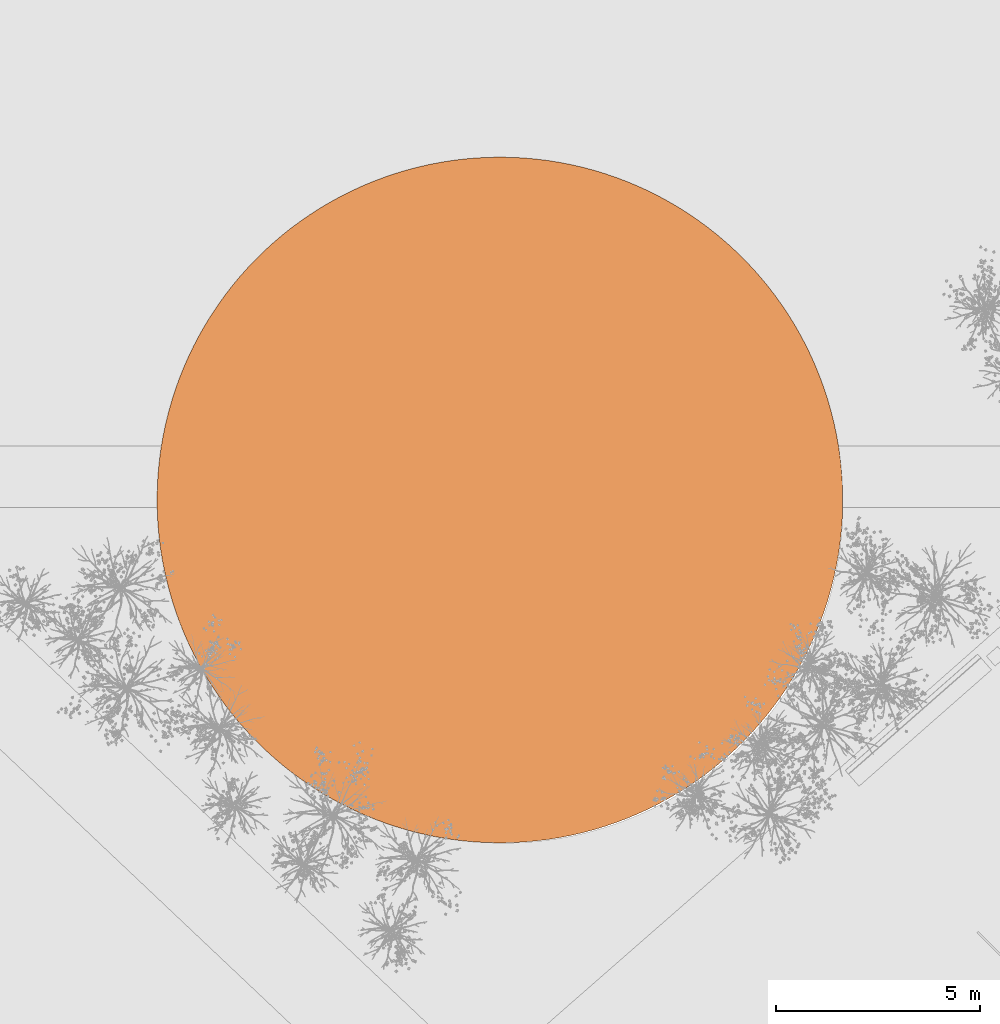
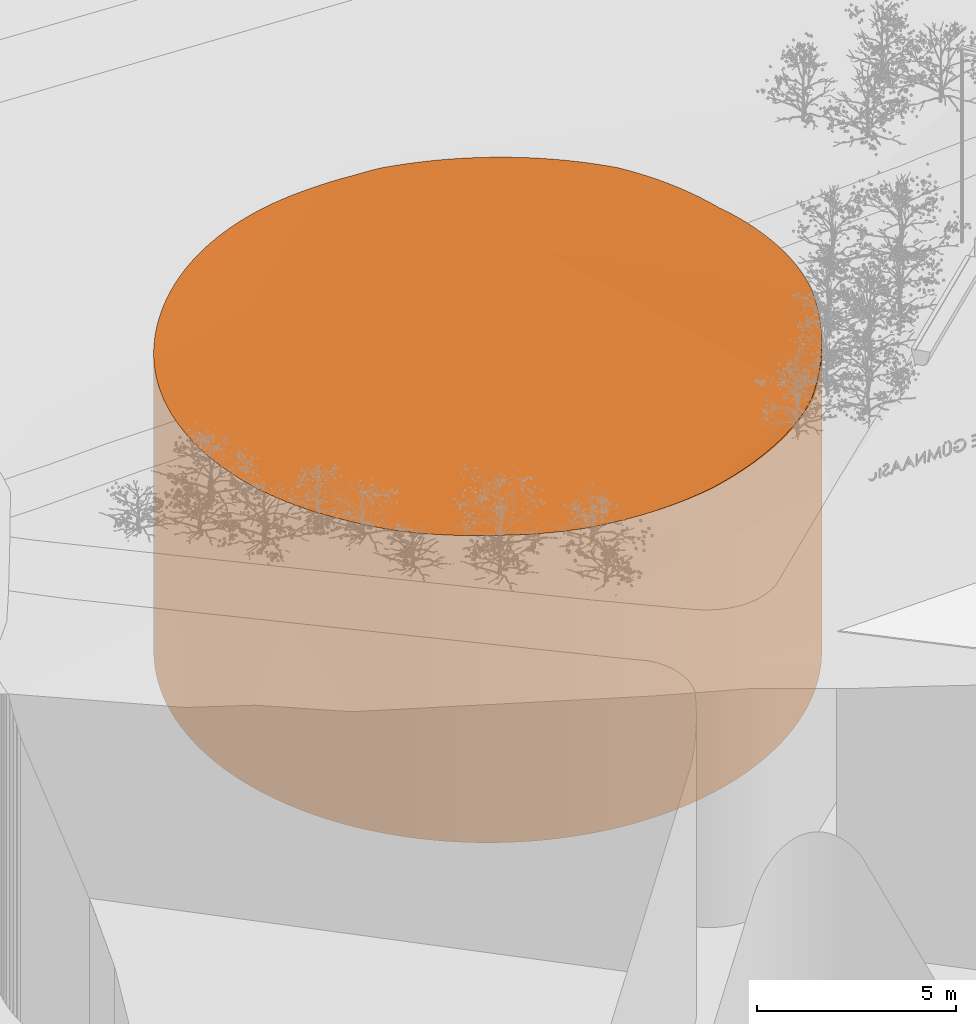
# One storey, part 224 of 246: 1 proxy.
"""IFC2X3 building model written with IfcOpenShell, lengths in millimetres."""

from ifc_helpers import new_model, entity, si_unit, converted_unit, derived_unit, money_unit, direction, frame, origin_with_axes, place, context, subcontext, project, spatial, faceted_brep, material, type_object, element, save


model = new_model("IFC2X3")

# Units and contexts
model_context = context("Model", 3, precision=0.01, world=origin_with_axes(), true_north=direction((0.0, 1.0)))
body_context = subcontext(model_context, "Body", "Model", "MODEL_VIEW")
ifc_project = project(units=[si_unit("LENGTHUNIT", "METRE", prefix="MILLI"), si_unit("AREAUNIT", "SQUARE_METRE"), si_unit("VOLUMEUNIT", "CUBIC_METRE"), converted_unit("PLANEANGLEUNIT", "DEGREE", entity("IfcPlaneAngleMeasure", 0.0174532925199), si_unit("PLANEANGLEUNIT", "RADIAN"), dimensions=[0, 0, 0, 0, 0, 0, 0]), si_unit("SOLIDANGLEUNIT", "STERADIAN"), money_unit("EUR"), converted_unit("TIMEUNIT", "Year", entity("IfcTimeMeasure", 31556926.0), si_unit("TIMEUNIT", "SECOND"), dimensions=[0, 0, 1, 0, 0, 0, 0]), si_unit("MASSUNIT", "GRAM", prefix="KILO"), si_unit("THERMODYNAMICTEMPERATUREUNIT", "DEGREE_CELSIUS"), si_unit("LUMINOUSINTENSITYUNIT", "LUMEN"), si_unit("ENERGYUNIT", "JOULE", prefix="MEGA"), derived_unit("THERMALCONDUCTANCEUNIT", [(si_unit("POWERUNIT", "WATT"), 1), (si_unit("LENGTHUNIT", "METRE"), -1), (si_unit("THERMODYNAMICTEMPERATUREUNIT", "KELVIN"), -1)]), derived_unit("SPECIFICHEATCAPACITYUNIT", [(si_unit("ENERGYUNIT", "JOULE"), 1), (si_unit("MASSUNIT", "GRAM", prefix="KILO"), -1), (si_unit("THERMODYNAMICTEMPERATUREUNIT", "KELVIN"), -1)]), derived_unit("MASSDENSITYUNIT", [(si_unit("MASSUNIT", "GRAM", prefix="KILO"), 1), (si_unit("VOLUMEUNIT", "CUBIC_METRE"), -1)])], contexts=[model_context])

# Site, building, storey
site_placement = place(None, origin_with_axes())
site = spatial("IfcSite", under=ifc_project, at=site_placement, Name="L.Koidula tn 11b", CompositionType="ELEMENT")
building_placement = place(site_placement, origin_with_axes())
building = spatial("IfcBuilding", under=site, at=building_placement, Name="Rakvere Riigigümnaasium", CompositionType="ELEMENT")
storey_placement = place(building_placement, origin_with_axes())
storey = spatial("IfcBuildingStorey", under=building, at=storey_placement, Name="1.korrus 0,00", CompositionType="ELEMENT", Elevation=0.0)

# Proxy
ifc_material = material(Name="Kruus")
building_element_proxy_type = type_object("IfcBuildingElementProxyType", Name="Kruus", PredefinedType="NOTDEFINED")
proxy_placement = place(storey_placement, frame((-4098.07599316, 79471.9446988, -10000.0), z_axis=(0.0, 0.0, 1.0), x_axis=(1.0, 0.0, 0.0)))
element("IfcBuildingElementProxy", 1, at=proxy_placement, inside=storey, type_object=building_element_proxy_type, material=ifc_material, Name="Mänguväljak", context=body_context, shape_type="Brep", body=[
    faceted_brep([(16793.1728065, 8836.53516543, 9500.16416428), (16803.1851431, 8546.63105121, 9518.1708592), (16803.1851431, 8546.63105121, 0.0), (16793.1728065, 8836.53516543, 0.0), (16803.1851431, 8256.55409189, 9535.74647705), (16773.1600651, 9125.92095034, 9481.7478512), (16743.1707685, 9414.44353943, 9462.94386702), (16703.2406556, 9701.75909488, 9443.77462082), (16653.4173117, 9987.52521732, 9424.26295695), (16593.7601124, 10271.4013539, 9404.43212782), (16524.3401521, 10553.0492039, 9384.3057662), (16469.8037759, 10745.4667403, 9370.24219908), (11909.4992352, 11556.3366902, 9120.0), (16455.8071012, 6008.33474663, 9656.64539547), (16524.3401521, 6250.13593918, 9645.01712826), (16593.7601124, 6531.78378925, 9631.01368521), (16653.4173117, 6815.65992579, 9616.44468815), (16703.2406556, 7101.42604822, 9601.32749923), (16743.1707685, 7388.74160367, 9585.6801339), (16773.1600651, 7677.26419277, 9569.52123941), (16793.1728065, 7966.64997768, 9552.87007262), (16803.1851431, 8256.55409189, 0.0), (0.0, 8256.55409189, 0.0), (0.0, 8401.59257155, 0.0), (0.0, 8546.63105121, 0.0), (10.0123366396, 8836.53516543, 0.0), (30.0250780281, 9125.92095034, 0.0), (60.0143746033, 9414.44353943, 0.0), (99.9444875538, 9701.75909488, 0.0), (149.767831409, 9987.52521732, 0.0), (209.42503075, 10271.4013539, 0.0), (278.844990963, 10553.0492039, 0.0), (357.94498297, 10832.1331225, 0.0), (446.630741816, 11108.3205199, 0.0), (544.796579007, 11381.2822585, 0.0), (652.325508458, 11650.6930446, 0.0), (769.089385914, 11916.2318162, 0.0), (894.949061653, 12177.5821259, 0.0), (1029.75454632, 12434.4325174, 0.0), (1173.34518968, 12686.4768973, 0.0), (1325.54987204, 12933.4148997, 0.0), (1486.18720821, 13174.9522437, 0.0), (1655.06576363, 13410.8010848, 0.0), (1831.98428255, 13640.6803574, 0.0), (2016.73192781, 13864.3161101, 0.0), (2209.08853217, 14081.441832, 0.0), (2408.82486061, 14291.7987701, 0.0), (2615.70288359, 14495.1362382, 0.0), (2829.47606065, 14691.2119152, 0.0), (3049.88963425, 14879.7921339, 0.0), (3276.68093338, 15060.6521598, 0.0), (3509.57968656, 15233.5764585, 0.0), (3748.30834395, 15398.358953, 0.0), (3992.58240808, 15554.8032687, 0.0), (4242.11077295, 15702.722968, 0.0), (4496.59607088, 15841.9417723, 0.0), (4755.73502694, 15972.2937718, 0.0), (5019.21882033, 16093.6236236, 0.0), (5286.73345245, 16205.7867367, 0.0), (5557.96012103, 16308.6494441, 0.0), (5832.57560015, 16402.0891624, 0.0), (6110.25262534, 16485.9945377, 0.0), (6390.66028365, 16560.2655784, 0.0), (6673.46440797, 16624.8137743, 0.0), (6958.32797528, 16679.5622021, 0.0), (7244.91150828, 16724.445617, 0.0), (7532.87347996, 16759.4105307, 0.0), (7821.8707206, 16784.4152748, 0.0), (8111.55882673, 16799.4300507, 0.0), (8401.59257155, 16804.4369649, 0.0), (8691.62631637, 16799.4300507, 0.0), (8981.3144225, 16784.4152748, 0.0), (9270.31166314, 16759.4105307, 0.0), (9558.27363483, 16724.445617, 0.0), (9844.85716783, 16679.5622021, 0.0), (10129.7207351, 16624.8137743, 0.0), (10412.5248595, 16560.2655784, 0.0), (10692.9325178, 16485.9945377, 0.0), (10970.609543, 16402.0891624, 0.0), (11245.2250221, 16308.6494441, 0.0), (11516.4516907, 16205.7867367, 0.0), (11783.9663228, 16093.6236236, 0.0), (12047.4501162, 15972.2937718, 0.0), (12306.5890722, 15841.9417723, 0.0), (12561.0743702, 15702.722968, 0.0), (12810.602735, 15554.8032687, 0.0), (13054.8767992, 15398.358953, 0.0), (13293.6054565, 15233.5764585, 0.0), (13526.5042097, 15060.6521598, 0.0), (13753.2955089, 14879.7921339, 0.0), (13973.7090825, 14691.2119152, 0.0), (14187.4822595, 14495.1362382, 0.0), (14394.3602825, 14291.7987701, 0.0), (14594.0966109, 14081.441832, 0.0), (14786.4532153, 13864.3161101, 0.0), (14971.2008606, 13640.6803574, 0.0), (15148.1193795, 13410.8010848, 0.0), (15316.9979349, 13174.9522437, 0.0), (15477.6352711, 12933.4148997, 0.0), (15629.8399534, 12686.4768973, 0.0), (15773.4305968, 12434.4325174, 0.0), (15908.2360815, 12177.5821259, 0.0), (16034.0957572, 11916.2318162, 0.0), (16150.8596346, 11650.6930446, 0.0), (16258.3885641, 11381.2822585, 0.0), (16356.5544013, 11108.3205199, 0.0), (16445.2401601, 10832.1331225, 0.0), (16524.3401521, 10553.0492039, 0.0), (16593.7601124, 10271.4013539, 0.0), (16653.4173117, 9987.52521732, 0.0), (16703.2406556, 9701.75909488, 0.0), (16743.1707685, 9414.44353943, 0.0), (16773.1600651, 9125.92095034, 0.0), (16793.1728065, 7966.64997768, 0.0), (16773.1600651, 7677.26419277, 0.0), (16743.1707685, 7388.74160367, 0.0), (16703.2406556, 7101.42604822, 0.0), (16653.4173117, 6815.65992579, 0.0), (16593.7601124, 6531.78378925, 0.0), (16524.3401521, 6250.13593918, 0.0), (16445.2401601, 5971.05202064, 0.0), (16356.5544013, 5694.8646232, 0.0), (16258.3885641, 5421.90288461, 0.0), (16150.8596346, 5152.49209853, 0.0), (16034.0957572, 4886.95332688, 0.0), (15908.2360815, 4625.60301725, 0.0), (15773.4305968, 4368.75262572, 0.0), (15629.8399534, 4116.70824576, 0.0), (15477.6352711, 3869.77024344, 0.0), (15316.9979349, 3628.23289942, 0.0), (15148.1193795, 3392.38405833, 0.0), (14971.2008606, 3162.50478569, 0.0), (14786.4532153, 2938.86903297, 0.0), (14594.0966109, 2721.74331113, 0.0), (14394.3602825, 2511.38637298, 0.0), (14187.4822595, 2308.04890488, 0.0), (13973.7090825, 2111.97322792, 0.0), (13753.2955089, 1923.39300919, 0.0), (13526.5042097, 1742.5329833, 0.0), (13293.6054565, 1569.60868457, 0.0), (13054.8767992, 1404.82619014, 0.0), (12810.602735, 1248.38187443, 0.0), (12561.0743702, 1100.4621751, 0.0), (12306.5890722, 961.243370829, 0.0), (12047.4501162, 830.891371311, 0.0), (11783.9663228, 709.561519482, 0.0), (11516.4516907, 597.398406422, 0.0), (11245.2250221, 494.53569903, 0.0), (10970.609543, 401.09598074, 0.0), (10692.9325178, 317.190605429, 0.0), (10412.5248595, 242.91956472, 0.0), (10129.7207351, 178.371368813, 0.0), (9844.85716783, 123.622941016, 0.0), (9558.27363483, 78.7395260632, 0.0), (9270.31166314, 43.7746123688, 0.0), (8981.3144225, 18.7698682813, 0.0), (8691.62631637, 3.75509242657, 0.0), (8401.59257155, -1.25182180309, 0.0), (8111.55882673, 3.75509242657, 0.0), (7821.8707206, 18.7698682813, 0.0), (7532.87347996, 43.7746123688, 0.0), (7244.91150828, 78.7395260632, 0.0), (6958.32797528, 123.622941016, 0.0), (6673.46440797, 178.371368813, 0.0), (6390.66028365, 242.91956472, 0.0), (6110.25262534, 317.190605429, 0.0), (5832.57560015, 401.09598074, 0.0), (5557.96012103, 494.53569903, 0.0), (5286.73345245, 597.398406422, 0.0), (5019.21882033, 709.561519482, 0.0), (4755.73502694, 830.891371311, 0.0), (4496.59607088, 961.243370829, 0.0), (4242.11077295, 1100.4621751, 0.0), (3992.58240808, 1248.38187443, 0.0), (3748.30834395, 1404.82619014, 0.0), (3509.57968656, 1569.60868457, 0.0), (3276.68093338, 1742.5329833, 0.0), (3049.88963425, 1923.39300919, 0.0), (2829.47606065, 2111.97322792, 0.0), (2615.70288359, 2308.04890488, 0.0), (2408.82486061, 2511.38637298, 0.0), (2209.08853217, 2721.74331113, 0.0), (2016.73192781, 2938.86903297, 0.0), (1831.98428255, 3162.50478569, 0.0), (1655.06576363, 3392.38405833, 0.0), (1486.18720821, 3628.23289942, 0.0), (1325.54987204, 3869.77024344, 0.0), (1173.34518968, 4116.70824576, 0.0), (1029.75454632, 4368.75262572, 0.0), (894.949061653, 4625.60301725, 0.0), (769.089385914, 4886.95332688, 0.0), (652.325508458, 5152.49209853, 0.0), (544.796579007, 5421.90288461, 0.0), (446.630741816, 5694.8646232, 0.0), (357.94498297, 5971.05202064, 0.0), (278.844990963, 6250.13593918, 0.0), (209.42503075, 6531.78378925, 0.0), (149.767831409, 6815.65992579, 0.0), (99.9444875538, 7101.42604822, 0.0), (60.0143746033, 7388.74160367, 0.0), (30.0250780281, 7677.26419277, 0.0), (10.0123366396, 7966.64997768, 0.0), (16445.2401601, 10832.1331225, 9373.11207921), (16356.5544013, 11108.3205199, 9381.59188704), (16258.3885641, 11381.2822585, 9389.29978147), (16150.8596346, 11650.6930446, 9396.22657687), (16034.0957572, 11916.2318162, 9402.36401844), (15908.2360815, 12177.5821259, 9407.70479209), (15773.4305968, 12434.4325174, 9412.2425331), (15629.8399534, 12686.4768973, 9415.97183377), (15477.6352711, 12933.4148997, 9418.88824982), (15316.9979349, 13174.9522437, 9420.98830571), (15148.1193795, 13410.8010848, 9422.26949874), (15094.477269, 13480.5010202, 9422.4092154), (10040.6501465, 16641.9324067, 9261.0536775), (9844.85716783, 16679.5622021, 9250.45403795), (9558.27363483, 16724.445617, 9234.41675225), (9315.77109184, 16753.8907567, 9220.40885864), (16445.2401601, 5971.05202064, 9653.55690861), (14428.2292925, 2547.05630494, 9199.51691582), (14594.0966109, 2721.74331113, 9232.93271981), (14786.4532153, 2938.86903297, 9272.21862972), (14971.2008606, 3162.50478569, 9310.50454149), (15148.1193795, 3392.38405833, 9347.7448291), (15316.9979349, 3628.23289942, 9383.89511257), (15477.6352711, 3869.77024344, 9418.91231094), (15629.8399534, 4116.70824576, 9452.75469354), (15773.4305968, 4368.75262572, 9485.38192977), (15908.2360815, 4625.60301725, 9516.75513714), (16034.0957572, 4886.95332688, 9546.8369276), (16150.8596346, 5152.49209853, 9575.59145212), (16258.3885641, 5421.90288461, 9602.98444338), (16356.5544013, 5694.8646232, 9628.98325663), (0.0, 8256.55409189, 9209.41218408), (0.0, 8401.59257155, 9206.79899902), (0.0, 8546.63105121, 9204.18581397), (10.0123366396, 8836.53516543, 9198.98358325), (30.0250780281, 9125.92095034, 9193.81169153), (60.0143746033, 9414.44353943, 9188.67630224), (99.9444875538, 9701.75909488, 9183.58353532), (149.767831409, 9987.52521732, 9178.53945992), (209.42503075, 10271.4013539, 9173.55008715), (278.844990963, 10553.0492039, 9168.62136296), (357.94498297, 10832.1331225, 9163.75916099), (446.630741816, 11108.3205199, 9158.96927562), (544.796579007, 11381.2822585, 9154.25741505), (652.325508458, 11650.6930446, 9149.62919449), (769.089385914, 11916.2318162, 9145.09012948), (894.949061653, 12177.5821259, 9140.6456293), (1029.75454632, 12434.4325174, 9136.30099056), (1078.02942188, 12519.1693135, 9134.87564596), (1173.34518968, 12686.4768973, 9139.79929695), (1325.54987204, 12933.4148997, 9146.96584629), (1486.18720821, 13174.9522437, 9153.87305653), (1655.06576363, 13410.8010848, 9160.51269621), (1831.98428255, 13640.6803574, 9166.87685275), (2016.73192781, 13864.3161101, 9172.95794187), (2152.93626893, 14018.0590293, 9175.80601456), (2209.08853217, 14081.441832, 9179.11675753), (2050.55964359, 13902.4997079, 9173.976304), (2408.82486061, 14291.7987701, 9189.70374938), (2615.70288359, 14495.1362382, 9199.52375203), (2829.47606065, 14691.2119152, 9208.56506281), (3049.88963425, 14879.7921339, 9216.81690701), (3276.68093338, 15060.6521598, 9224.26945074), (3509.57968656, 15233.5764585, 9230.91381269), (3748.30834395, 15398.358953, 9236.74207462), (3992.58240808, 15554.8032687, 9241.7472909), (4242.11077295, 15702.722968, 9245.92349671), (4496.59607088, 15841.9417723, 9249.26571518), (4755.73502694, 15972.2937718, 9251.76996334), (5019.21882033, 16093.6236236, 9253.43325682), (5286.73345245, 16205.7867367, 9254.25361345), (5557.96012103, 16308.6494441, 9254.23005559), (5832.57560015, 16402.0891624, 9253.36261132), (6110.25262534, 16485.9945377, 9251.65231437), (6390.66028365, 16560.2655784, 9249.10120296), (6673.46440797, 16624.8137743, 9245.71231728), (6958.32797528, 16679.5622021, 9241.48969594), (7244.91150828, 16724.445617, 9236.43837111), (7532.87347996, 16759.4105307, 9230.56436255), (7821.8707206, 16784.4152748, 9223.87467043), (7911.71103052, 16789.0717729, 9222.13969302), (8111.55882673, 16799.4300507, 9220.75259614), (7890.18095193, 16787.955851, 9222.10673674), (8361.85675029, 16803.750997, 9218.94756473), (8401.59257155, 16804.4369649, 9219.08283967), (8338.04451547, 16803.3399213, 9218.91130238), (8691.62631637, 16799.4300507, 9219.8615517), (8981.3144225, 16784.4152748, 9220.43066917), (9111.27919065, 16773.170407, 9220.59204499), (9270.31166314, 16759.4105307, 9220.47401538), (10129.7207351, 16624.8137743, 9260.07859858), (10412.5248595, 16560.2655784, 9257.99137139), (10692.9325178, 16485.9945377, 9256.93788006), (10970.609543, 16402.0891624, 9256.91938005), (11245.2250221, 16308.6494441, 9257.9358934), (11516.4516907, 16205.7867367, 9259.98620872), (11783.9663228, 16093.6236236, 9263.0678826), (12047.4501162, 15972.2937718, 9267.17724256), (12306.5890722, 15841.9417723, 9272.30939139), (12561.0743702, 15702.722968, 9278.45821302), (12810.602735, 15554.8032687, 9285.61637977), (13054.8767992, 15398.358953, 9293.77536114), (13293.6054565, 15233.5764585, 9302.9254339), (13526.5042097, 15060.6521598, 9313.05569373), (13753.2955089, 14879.7921339, 9324.15406823), (13973.7090825, 14691.2119152, 9336.20733124), (14187.4822595, 14495.1362382, 9349.20111866), (14394.3602825, 14291.7987701, 9363.11994556), (14594.0966109, 14081.441832, 9377.94722459), (14786.4532153, 13864.3161101, 9393.66528582), (14971.2008606, 13640.6803574, 9410.25539774), (14394.3602825, 2511.38637298, 9199.85098429), (14297.0427969, 2415.73439975, 9226.10874876), (14187.4822595, 2308.04890488, 9230.24087096), (14378.2235336, 2495.52579192, 9200.0), (14149.0695306, 2272.81622542, 9231.17838827), (13973.7090825, 2111.97322792, 9248.03977026), (13753.2955089, 1923.39300919, 9267.12785167), (13526.5042097, 1742.5329833, 9284.72639693), (13293.6054565, 1569.60868457, 9300.81443354), (13054.8767992, 1404.82619014, 9315.37278907), (12810.602735, 1248.38187443, 9328.38411407), (12561.0743702, 1100.4621751, 9339.83290268), (12306.5890722, 961.243370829, 9349.70551117), (12047.4501162, 830.891371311, 9357.99017417), (11783.9663228, 709.561519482, 9364.67701868), (11516.4516907, 597.398406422, 9369.75807587), (11245.2250221, 494.53569903, 9373.22729055), (10970.609543, 401.09598074, 9375.08052838), (10692.9325178, 317.190605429, 9375.31558083), (10412.5248595, 242.91956472, 9373.93216778), (10239.995327, 203.540824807, 9372.1018258), (10129.7207351, 178.371368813, 9374.55681987), (9844.85716783, 123.622941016, 9380.28328928), (9558.27363483, 78.7395260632, 9385.43346161), (9270.31166314, 43.7746123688, 9390.00119932), (8981.3144225, 18.7698682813, 9393.98105893), (8691.62631637, 3.75509242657, 9397.36829758), (8401.59257155, -1.25182180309, 9400.15887863), (8111.55882673, 3.75509242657, 9402.3494765), (7821.8707206, 18.7698682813, 9403.93748059), (7532.87347996, 43.7746123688, 9404.92099847), (7244.91150828, 78.7395260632, 9405.29885805), (6958.32797528, 123.622941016, 9405.07060904), (6673.46440797, 178.371368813, 9404.23652343), (6510.32363764, 215.607185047, 9403.40645118), (6390.66028365, 242.91956472, 9405.61696792), (6110.25262534, 317.190605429, 9410.64340762), (5832.57560015, 401.09598074, 9415.46611401), (5557.96012103, 494.53569903, 9420.07933978), (5286.73345245, 597.398406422, 9424.47758724), (5019.21882033, 709.561519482, 9428.65561495), (4755.73502694, 830.891371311, 9432.60844384), (4496.59607088, 961.243370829, 9436.33136327), (4243.26236908, 1099.83218257, 9439.80415009), (4242.11077295, 1100.4621751, 9439.76672202), (3992.58240808, 1248.38187443, 9431.21563129), (3748.30834395, 1404.82619014, 9422.39467575), (3509.57968656, 1569.60868457, 9413.31436749), (3276.68093338, 1742.5329833, 9403.98552769), (3049.88963425, 1923.39300919, 9394.41927371), (2829.47606065, 2111.97322792, 9384.62700583), (2615.70288359, 2308.04890488, 9374.62039369), (2408.82486061, 2511.38637298, 9364.41136234), (2317.82101234, 2607.22918251, 9359.67324137), (2209.08853217, 2721.74331113, 9357.918634), (2016.73192781, 2938.86903297, 9354.51279918), (1831.98428255, 3162.50478569, 9350.92831755), (1655.06576363, 3392.38405833, 9347.1694608), (1486.18720821, 3628.23289942, 9343.24070843), (1484.25814353, 3631.13347764, 9343.19154474), (1325.54987204, 3869.77024344, 9333.06946429), (1173.34518968, 4116.70824576, 9322.84544633), (1029.75454632, 4368.75262572, 9312.65470671), (894.949061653, 4625.60301725, 9302.50938992), (769.089385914, 4886.95332688, 9292.42158633), (652.325508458, 5152.49209853, 9282.40331776), (544.796579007, 5421.90288461, 9272.46652319), (446.630741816, 5694.8646232, 9262.62304446), (357.94498297, 5971.05202064, 9252.88461225), (306.115987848, 6153.91726102, 9247.93860223), (278.844990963, 6250.13593918, 9246.14774535), (327.20186797, 6079.52117196, 9249.14499751), (209.42503075, 6531.78378925, 9240.92746696), (149.767831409, 6815.65992579, 9235.68754224), (99.9444875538, 7101.42604822, 9230.43421571), (60.0143746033, 7388.74160367, 9225.17374785), (30.0250780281, 7677.26419277, 9219.91240768), (10.0123366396, 7966.64997768, 9214.65646522), (11709.7393427, 11566.1339006, 9120.0), (14243.7712844, 2502.1199934, 9200.0), (4086.70695162, 13140.4461836, 9130.0), (4286.46684411, 13130.6489732, 9130.0)], [[[0, 1, 2, 3]], [[4, 1, 0, 5, 6, 7, 8, 9, 10, 11, 12, 13, 14, 15, 16, 17, 18, 19, 20]], [[1, 4, 21, 2]], [[22, 23, 24, 25, 26, 27, 28, 29, 30, 31, 32, 33, 34, 35, 36, 37, 38, 39, 40, 41, 42, 43, 44, 45, 46, 47, 48, 49, 50, 51, 52, 53, 54, 55, 56, 57, 58, 59, 60, 61, 62, 63, 64, 65, 66, 67, 68, 69, 70, 71, 72, 73, 74, 75, 76, 77, 78, 79, 80, 81, 82, 83, 84, 85, 86, 87, 88, 89, 90, 91, 92, 93, 94, 95, 96, 97, 98, 99, 100, 101, 102, 103, 104, 105, 106, 107, 108, 109, 110, 111, 112, 3, 2, 21, 113, 114, 115, 116, 117, 118, 119, 120, 121, 122, 123, 124, 125, 126, 127, 128, 129, 130, 131, 132, 133, 134, 135, 136, 137, 138, 139, 140, 141, 142, 143, 144, 145, 146, 147, 148, 149, 150, 151, 152, 153, 154, 155, 156, 157, 158, 159, 160, 161, 162, 163, 164, 165, 166, 167, 168, 169, 170, 171, 172, 173, 174, 175, 176, 177, 178, 179, 180, 181, 182, 183, 184, 185, 186, 187, 188, 189, 190, 191, 192, 193, 194, 195, 196, 197, 198, 199, 200, 201]], [[5, 0, 3, 112]], [[6, 5, 112, 111]], [[7, 6, 111, 110]], [[8, 7, 110, 109]], [[9, 8, 109, 108]], [[10, 9, 108, 107]], [[11, 10, 107, 106, 202]], [[11, 202, 203, 204, 205, 206, 207, 208, 209, 210, 211, 212, 213, 214, 215, 216, 217, 12]], [[218, 13, 12, 219, 220, 221, 222, 223, 224, 225, 226, 227, 228, 229, 230, 231, 232]], [[13, 218, 120, 119, 14]], [[15, 14, 119, 118]], [[16, 15, 118, 117]], [[17, 16, 117, 116]], [[18, 17, 116, 115]], [[19, 18, 115, 114]], [[20, 19, 114, 113]], [[4, 20, 113, 21]], [[233, 234, 23, 22]], [[234, 235, 24, 23]], [[235, 236, 25, 24]], [[236, 237, 26, 25]], [[237, 238, 27, 26]], [[238, 239, 28, 27]], [[239, 240, 29, 28]], [[240, 241, 30, 29]], [[241, 242, 31, 30]], [[242, 243, 32, 31]], [[243, 244, 33, 32]], [[244, 245, 34, 33]], [[245, 246, 35, 34]], [[246, 247, 36, 35]], [[247, 248, 37, 36]], [[248, 249, 38, 37]], [[250, 251, 39, 38, 249]], [[251, 252, 40, 39]], [[252, 253, 41, 40]], [[253, 254, 42, 41]], [[254, 255, 43, 42]], [[255, 256, 44, 43]], [[257, 258, 45, 44, 256, 259]], [[258, 260, 46, 45]], [[260, 261, 47, 46]], [[261, 262, 48, 47]], [[262, 263, 49, 48]], [[263, 264, 50, 49]], [[264, 265, 51, 50]], [[265, 266, 52, 51]], [[266, 267, 53, 52]], [[267, 268, 54, 53]], [[268, 269, 55, 54]], [[269, 270, 56, 55]], [[270, 271, 57, 56]], [[271, 272, 58, 57]], [[272, 273, 59, 58]], [[273, 274, 60, 59]], [[274, 275, 61, 60]], [[275, 276, 62, 61]], [[276, 277, 63, 62]], [[277, 278, 64, 63]], [[278, 279, 65, 64]], [[279, 280, 66, 65]], [[280, 281, 67, 66]], [[282, 283, 68, 67, 281, 284]], [[285, 286, 69, 68, 283, 287]], [[286, 288, 70, 69]], [[288, 289, 71, 70]], [[290, 291, 72, 71, 289]], [[217, 216, 73, 72, 291]], [[216, 215, 74, 73]], [[214, 292, 75, 74, 215]], [[292, 293, 76, 75]], [[293, 294, 77, 76]], [[294, 295, 78, 77]], [[295, 296, 79, 78]], [[296, 297, 80, 79]], [[297, 298, 81, 80]], [[298, 299, 82, 81]], [[299, 300, 83, 82]], [[300, 301, 84, 83]], [[301, 302, 85, 84]], [[302, 303, 86, 85]], [[303, 304, 87, 86]], [[304, 305, 88, 87]], [[305, 306, 89, 88]], [[306, 307, 90, 89]], [[307, 308, 91, 90]], [[308, 309, 92, 91]], [[309, 310, 93, 92]], [[310, 311, 94, 93]], [[311, 312, 95, 94]], [[213, 212, 96, 95, 312]], [[212, 211, 97, 96]], [[211, 210, 98, 97]], [[210, 209, 99, 98]], [[209, 208, 100, 99]], [[208, 207, 101, 100]], [[207, 206, 102, 101]], [[206, 205, 103, 102]], [[205, 204, 104, 103]], [[204, 203, 105, 104]], [[203, 202, 106, 105]], [[218, 232, 121, 120]], [[232, 231, 122, 121]], [[231, 230, 123, 122]], [[230, 229, 124, 123]], [[229, 228, 125, 124]], [[228, 227, 126, 125]], [[227, 226, 127, 126]], [[226, 225, 128, 127]], [[225, 224, 129, 128]], [[224, 223, 130, 129]], [[223, 222, 131, 130]], [[222, 221, 132, 131]], [[221, 220, 133, 132]], [[219, 313, 134, 133, 220]], [[314, 315, 135, 134, 313, 316]], [[317, 318, 136, 135, 315]], [[318, 319, 137, 136]], [[319, 320, 138, 137]], [[320, 321, 139, 138]], [[321, 322, 140, 139]], [[322, 323, 141, 140]], [[323, 324, 142, 141]], [[324, 325, 143, 142]], [[325, 326, 144, 143]], [[326, 327, 145, 144]], [[327, 328, 146, 145]], [[328, 329, 147, 146]], [[329, 330, 148, 147]], [[330, 331, 149, 148]], [[331, 332, 150, 149]], [[333, 334, 151, 150, 332]], [[334, 335, 152, 151]], [[335, 336, 153, 152]], [[336, 337, 154, 153]], [[337, 338, 155, 154]], [[338, 339, 156, 155]], [[339, 340, 157, 156]], [[340, 341, 158, 157]], [[341, 342, 159, 158]], [[342, 343, 160, 159]], [[343, 344, 161, 160]], [[344, 345, 162, 161]], [[345, 346, 163, 162]], [[347, 348, 164, 163, 346]], [[348, 349, 165, 164]], [[349, 350, 166, 165]], [[350, 351, 167, 166]], [[351, 352, 168, 167]], [[352, 353, 169, 168]], [[353, 354, 170, 169]], [[354, 355, 171, 170]], [[356, 357, 172, 171, 355]], [[357, 358, 173, 172]], [[358, 359, 174, 173]], [[359, 360, 175, 174]], [[360, 361, 176, 175]], [[361, 362, 177, 176]], [[362, 363, 178, 177]], [[363, 364, 179, 178]], [[364, 365, 180, 179]], [[366, 367, 181, 180, 365]], [[367, 368, 182, 181]], [[368, 369, 183, 182]], [[369, 370, 184, 183]], [[370, 371, 185, 184]], [[372, 373, 186, 185, 371]], [[373, 374, 187, 186]], [[374, 375, 188, 187]], [[375, 376, 189, 188]], [[376, 377, 190, 189]], [[377, 378, 191, 190]], [[378, 379, 192, 191]], [[379, 380, 193, 192]], [[380, 381, 194, 193]], [[382, 383, 195, 194, 381, 384]], [[383, 385, 196, 195]], [[385, 386, 197, 196]], [[386, 387, 198, 197]], [[387, 388, 199, 198]], [[388, 389, 200, 199]], [[389, 390, 201, 200]], [[390, 233, 22, 201]], [[213, 312, 311, 310, 309, 308, 307, 306, 305, 304, 303, 302, 301, 300, 299, 298, 297, 296, 295, 294, 293, 292, 214]], [[217, 291, 290, 391, 12]], [[313, 219, 12, 391, 392, 316]], [[250, 249, 248, 247, 246, 245, 244, 243, 242, 241, 240, 239, 238, 237, 236, 235, 234, 233, 390, 389, 388, 387, 386, 385, 383, 382, 393]], [[287, 283, 282, 259, 256, 255, 254, 253, 252, 251, 250, 393]], [[284, 281, 280, 279, 278, 277, 276, 275, 274, 273, 272, 271, 270, 269, 268, 267, 266, 265, 264, 263, 262, 261, 260, 258, 257]], [[282, 284, 257, 259]], [[290, 289, 288, 286, 285, 394, 391]], [[285, 287, 393, 394]], [[315, 314, 392, 317]], [[314, 316, 392]], [[318, 317, 392, 333, 332, 331, 330, 329, 328, 327, 326, 325, 324, 323, 322, 321, 320, 319]], [[334, 333, 392, 347, 346, 345, 344, 343, 342, 341, 340, 339, 338, 337, 336, 335]], [[348, 347, 392, 391, 356, 355, 354, 353, 352, 351, 350, 349]], [[357, 356, 391, 366, 365, 364, 363, 362, 361, 360, 359, 358]], [[367, 366, 391, 394, 372, 371, 370, 369, 368]], [[373, 372, 394, 384, 381, 380, 379, 378, 377, 376, 375, 374]], [[382, 384, 394, 393]]]),
])

save(model, "model.ifc")
